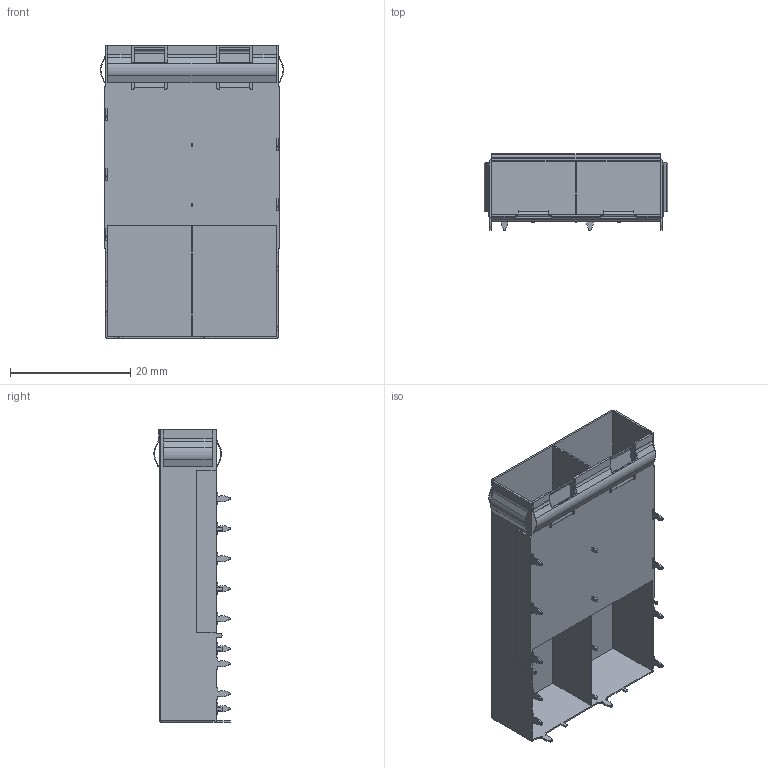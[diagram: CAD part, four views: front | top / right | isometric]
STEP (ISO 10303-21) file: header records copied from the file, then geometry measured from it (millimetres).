
FILE_DESCRIPTION (( 'STEP AP203' ), '1' );
FILE_NAME ('SFP+ 1X2 压接脚 短鱼眼 无月牙（3D-20220425）.STEP', '2022-04-25T03:38:47', ( '桑三博客' ), ( 'Www.SangSan.Cn' ), 'SwSTEP 2.0', 'SolidWorks 2018', '' );
FILE_SCHEMA (( 'CONFIG_CONTROL_DESIGN' ));
Length unit declared in the file: millimetre
Products named in the file (1): SFP+ 1X2 压接脚 短鱼眼 无月牙（3D-20220425）
Bounding box: 30.58 x 12.72 x 48.75 mm (x, y, z)
Volume: 1046.9 mm3; surface area: 8486.7 mm2
Topology: 1 solids, 1 shells, 418 faces, 1242 edges, 822 vertices
Faces by surface type: plane 232, cylinder 184, sphere 2
Entity records: 14139 total; most frequent: CARTESIAN_POINT 2481, ORIENTED_EDGE 2480, DIRECTION 2452, EDGE_CURVE 1240, LINE 866, VECTOR 866, VERTEX_POINT 822, AXIS2_PLACEMENT_3D 793
